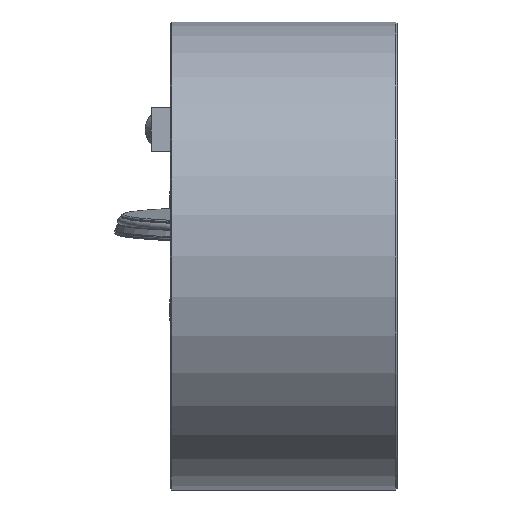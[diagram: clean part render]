
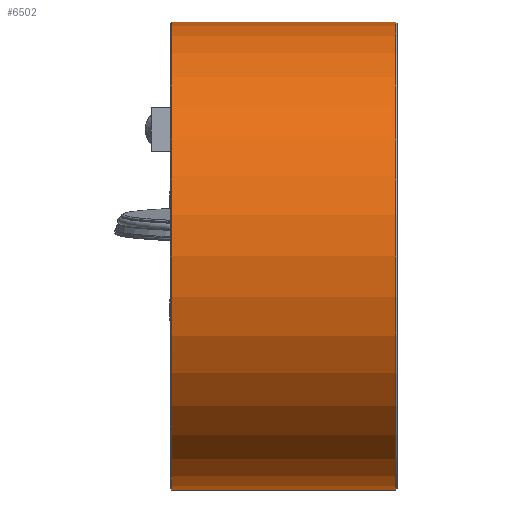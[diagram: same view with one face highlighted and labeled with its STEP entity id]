
A CAD part, left-side view. The second image highlights one B-rep face of the part: STEP entity #6502.
In plain terms, the highlighted cylindrical face has radius 82.5 mm (diameter 165 mm), a full revolution.
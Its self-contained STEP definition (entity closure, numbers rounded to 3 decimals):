
#4522=CYLINDRICAL_SURFACE('',#19680,82.5);
#4868=FACE_BOUND('',#8600,.T.);
#4869=FACE_BOUND('',#8601,.T.);
#4870=FACE_BOUND('',#8602,.T.);
#5774=CIRCLE('',#19673,82.5);
#5776=CIRCLE('',#19676,82.5);
#5777=CIRCLE('',#19678,82.5);
#5778=CIRCLE('',#19679,82.5);
#6502=ADVANCED_FACE('',(#4868,#4869,#4870),#4522,.T.);
#8600=EDGE_LOOP('',(#10177,#10178,#10179,#10180));
#8601=EDGE_LOOP('',(#10181));
#8602=EDGE_LOOP('',(#10182));
#10177=ORIENTED_EDGE('',*,*,#15532,.F.);
#10178=ORIENTED_EDGE('',*,*,#15516,.F.);
#10179=ORIENTED_EDGE('',*,*,#15535,.F.);
#10180=ORIENTED_EDGE('',*,*,#15514,.F.);
#10181=ORIENTED_EDGE('',*,*,#15536,.T.);
#10182=ORIENTED_EDGE('',*,*,#15534,.F.);
#13998=VERTEX_POINT('',#26049);
#13999=VERTEX_POINT('',#26051);
#14000=VERTEX_POINT('',#26053);
#14001=VERTEX_POINT('',#26055);
#14015=VERTEX_POINT('',#26091);
#14016=VERTEX_POINT('',#26095);
#15514=EDGE_CURVE('',#13998,#13999,#17455,.T.);
#15516=EDGE_CURVE('',#14000,#14001,#17457,.T.);
#15532=EDGE_CURVE('',#14001,#13998,#5774,.T.);
#15534=EDGE_CURVE('',#14015,#14015,#5776,.T.);
#15535=EDGE_CURVE('',#13999,#14000,#5777,.T.);
#15536=EDGE_CURVE('',#14016,#14016,#5778,.T.);
#17455=LINE('',#26050,#18547);
#17457=LINE('',#26054,#18549);
#18547=VECTOR('',#21512,1.);
#18549=VECTOR('',#21514,1.);
#19673=AXIS2_PLACEMENT_3D('',#26087,#21550,#21551);
#19676=AXIS2_PLACEMENT_3D('',#26090,#21556,#21557);
#19678=AXIS2_PLACEMENT_3D('',#26093,#21560,#21561);
#19679=AXIS2_PLACEMENT_3D('',#26094,#21562,#21563);
#19680=AXIS2_PLACEMENT_3D('',#26096,#21564,#21565);
#21512=DIRECTION('',(-1.,0.,0.));
#21514=DIRECTION('',(1.,0.,0.));
#21550=DIRECTION('',(-1.,0.,0.));
#21551=DIRECTION('',(0.,0.,-1.));
#21556=DIRECTION('',(-1.,0.,0.));
#21557=DIRECTION('',(0.,0.,1.));
#21560=DIRECTION('',(1.,0.,0.));
#21561=DIRECTION('',(0.,0.,1.));
#21562=DIRECTION('',(-1.,0.,0.));
#21563=DIRECTION('',(0.,0.,1.));
#21564=DIRECTION('',(-1.,0.,0.));
#21565=DIRECTION('',(0.,0.,1.));
#26049=CARTESIAN_POINT('',(68.038,70.,-43.661));
#26050=CARTESIAN_POINT('',(0.,70.,-43.661));
#26051=CARTESIAN_POINT('',(31.963,70.,-43.661));
#26053=CARTESIAN_POINT('',(31.963,70.,43.661));
#26054=CARTESIAN_POINT('',(0.,70.,43.661));
#26055=CARTESIAN_POINT('',(68.038,70.,43.661));
#26087=CARTESIAN_POINT('',(68.038,0.,0.));
#26090=CARTESIAN_POINT('',(0.5,0.,0.));
#26091=CARTESIAN_POINT('',(0.5,0.,82.5));
#26093=CARTESIAN_POINT('',(31.963,0.,0.));
#26094=CARTESIAN_POINT('',(79.5,0.,0.));
#26095=CARTESIAN_POINT('',(79.5,0.,82.5));
#26096=CARTESIAN_POINT('',(0.,0.,0.));
